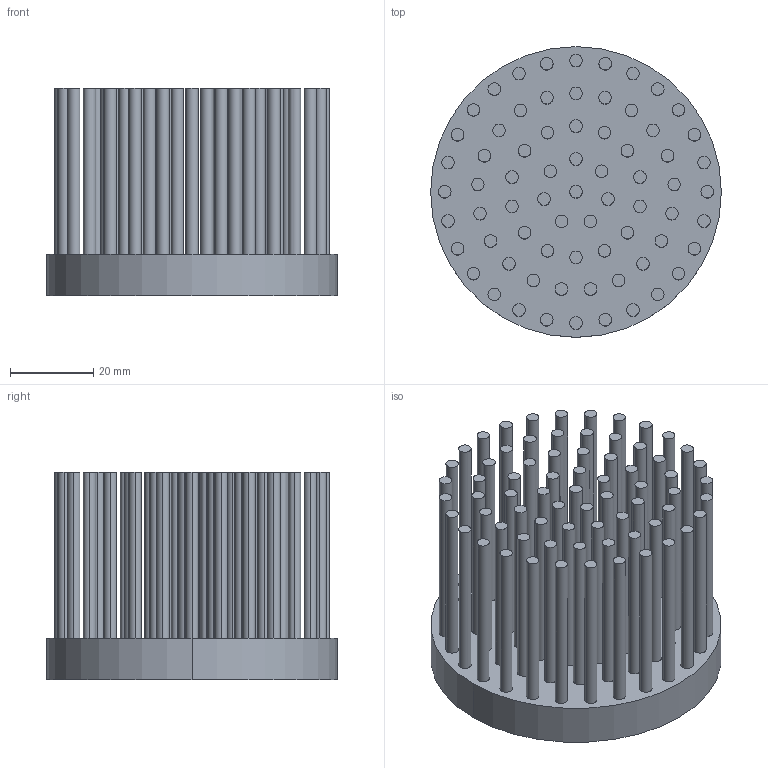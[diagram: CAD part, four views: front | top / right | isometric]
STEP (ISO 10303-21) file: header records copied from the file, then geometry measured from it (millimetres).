
FILE_DESCRIPTION (( 'STEP AP214' ), '1' );
FILE_NAME ('CPL7050-101.STEP', '2014-01-28T19:55:06', ( '' ), ( '' ), 'SwSTEP 2.0', 'SolidWorks 2013', '' );
FILE_SCHEMA (( 'AUTOMOTIVE_DESIGN' ));
Length unit declared in the file: millimetre
Products named in the file (1): CPL7050-101
Bounding box: 70 x 70 x 50 mm (x, y, z)
Volume: 58559.3 mm3; surface area: 36662.4 mm2
Topology: 1 solids, 1 shells, 217 faces, 432 edges, 288 vertices
Faces by surface type: cylinder 144, plane 73
Entity records: 5808 total; most frequent: DIRECTION 1156, CARTESIAN_POINT 938, ORIENTED_EDGE 864, AXIS2_PLACEMENT_3D 506, EDGE_CURVE 432, EDGE_LOOP 288, VERTEX_POINT 288, CIRCLE 288
